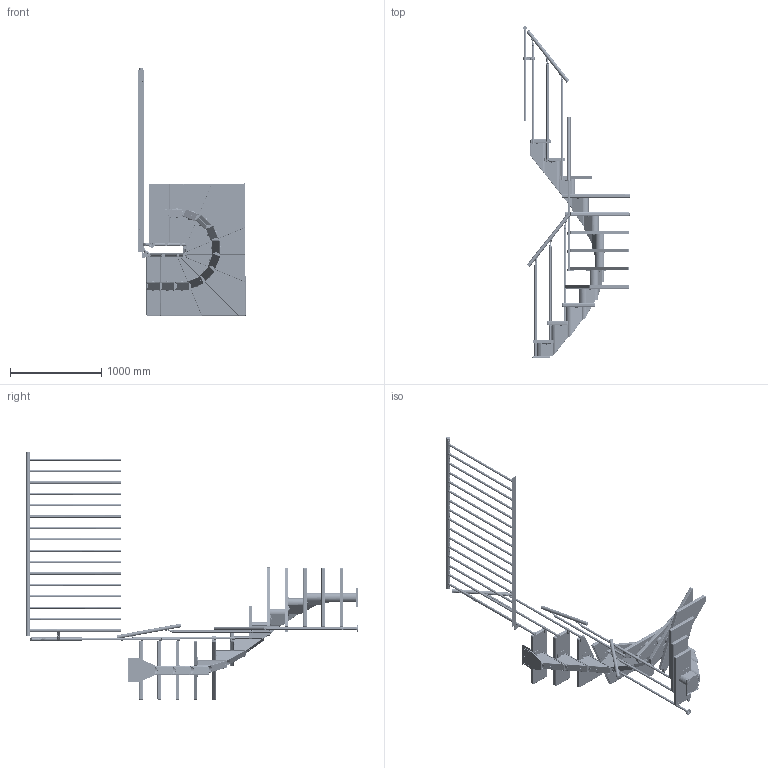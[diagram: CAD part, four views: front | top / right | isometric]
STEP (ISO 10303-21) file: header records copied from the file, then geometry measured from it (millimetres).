
FILE_DESCRIPTION (( 'STEP AP214' ), '1' );
FILE_NAME ('5495 - FRANKFURT ½-sving CLASSIC gelænder.STEP', '2021-09-03T10:27:48', ( '' ), ( '' ), 'SwSTEP 2.0', 'SolidWorks 2019', '' );
FILE_SCHEMA (( 'AUTOMOTIVE_DESIGN' ));
Length unit declared in the file: millimetre
Products named in the file (117): K1-1077209; K3-06027; K1-1077676; K1-1077165_K1-1077167; K3-02016_M5x12 DIN 912; K2-1077425_K2-1077427; K2-1077025_K2-1077027; K1-1077650_K1-1077652; 1077480-01_23; K2-1077195_K2-1077197; K1-34020___; K2-1077675-1_K1-1077677; HÅNDLISTE^5066749; K2-1077155_K2-1077157; K2-1077170_K2-1077172; K1-34021; M2-1078306; K1-1077150_K1-1077152; K3-06022_K3-06022; H2-20505; M2-1078309; K1-1077411; K1-1077400_K1-1077402; K1-34031; K3-10226; M2-1078300; M2-1078308; R1-63500_R1-63500; K1-01040; 1078905; K1-1077170_K1-1077172; H2-20506; K3-03008_M8-ISO4034_Simpel; K1-1077070_K1-1077072; K1-34030; K3-02009_K3-02009; K1-1077675; K1-08310-01; K1-40562_Default<As Machined>; K2-1077030_K2-1077032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
Assembly tree (243 placements, depth 5):
  5495  - FRANKFURT ½-sving CLASSIC gelænder
    5066749
      1077480-01_23
        K2-1077420_K2-1077422
          K1-34031
          K1-34030
          K1-1077002
        K2-1077425_K2-1077427
          K1-34031
          K1-34030
        K2-1077425_K2-1077427
          K1-34031
          K1-34030
        K2-1077425_K2-1077427
          K1-34031
          K1-34030
        K2-1077425_K2-1077427
          K1-34031
          K1-34030
        K2-1077425_K2-1077427
          K1-34031
          K1-34030
        K2-1077425_K2-1077427
          K1-34031
          K1-34030
        K2-1077425_K2-1077427
          K1-34031
          K1-34030
        K2-1077425_K2-1077427
          K1-34031
          K1-34030
        K2-1077425_K2-1077427
          K1-34031
          K1-34030
        K2-1077425_K2-1077427
          K1-34031
          K1-34030
        K2-1077430_K2-1077432
          K1-34021
          K1-34020___
          K1-1077411
        K2-1077440_K2-1077442
          K1-34010
          K1-34011
        K1-1077400_K1-1077402
        K1-1077070_K1-1077072
        H2-20505
        H2-20506
        R1-63500_R1-63500
        K3-04053_K3-04053
      M2-1078300
      M2-1078309  x2
      M2-1078308  x2
      M2-1078307  x2
      M2-1078306  x2
      M2-1078301  x3
      K1-1077655_K1-1077657  x7
      K2-1077025_K2-1077027
        K1-40560
        K1-40561
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Bounding box: 1180.44 x 3642.16 x 2720 mm (x, y, z)
Volume: 92340760.4 mm3; surface area: 13568179.1 mm2
Topology: 195 solids, 195 shells, 6289 faces, 15208 edges, 9312 vertices
Faces by surface type: cylinder 2575, plane 1995, bspline 563, cone 554, torus 508, sphere 94
Entity records: 73486 total; most frequent: CARTESIAN_POINT 23242, DIRECTION 10201, ORIENTED_EDGE 9192, EDGE_CURVE 4596, AXIS2_PLACEMENT_3D 4111, VERTEX_POINT 2849, EDGE_LOOP 2131, CIRCLE 1987
